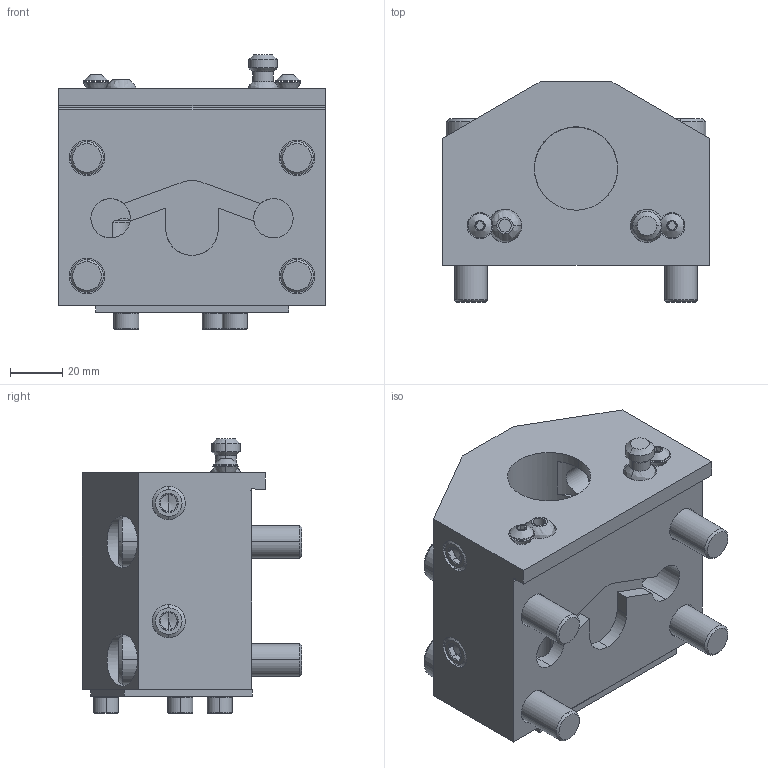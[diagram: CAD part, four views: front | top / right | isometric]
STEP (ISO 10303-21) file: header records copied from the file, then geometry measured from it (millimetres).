
FILE_DESCRIPTION (( 'STEP AP203' ), '1' );
FILE_NAME ('04-0756, BOT20ID-1.25.STEP', '2022-07-15T20:33:36', ( '' ), ( '' ), 'SwSTEP 2.0', 'SolidWorks 2021', '' );
FILE_SCHEMA (( 'CONFIG_CONTROL_DESIGN' ));
Length unit declared in the file: inch
Products named in the file (1): 04-0756, BOT20ID-1.25
Bounding box: 101.6 x 83.82 x 104.43 mm (x, y, z)
Surface area: 83134 mm2 (no closed solid volume)
Topology: 0 solids, 28 shells, 369 faces, 998 edges, 657 vertices
Faces by surface type: plane 186, cylinder 93, cone 66, bspline 24
Entity records: 19242 total; most frequent: CARTESIAN_POINT 10364, ORIENTED_EDGE 1789, DIRECTION 1689, EDGE_CURVE 982, VERTEX_POINT 657, AXIS2_PLACEMENT_3D 604, LINE 481, VECTOR 481
